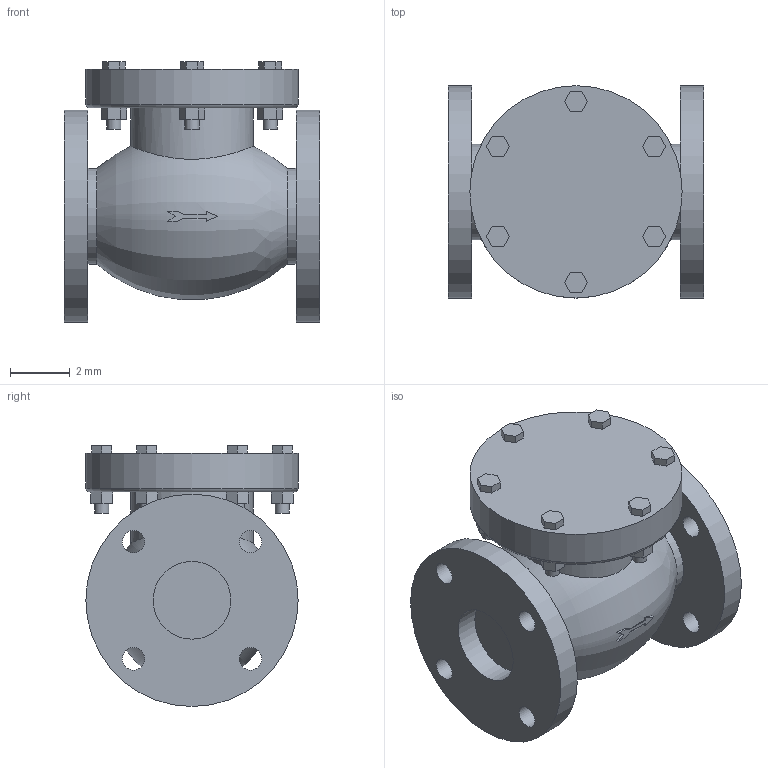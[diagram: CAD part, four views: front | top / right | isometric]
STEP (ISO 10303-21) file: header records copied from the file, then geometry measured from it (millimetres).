
FILE_DESCRIPTION(('Open CASCADE Model'),'2;1');
FILE_NAME('Open CASCADE Shape Model','2021-09-27T08:43:53',('Author'),( 'Open CASCADE'),'Open CASCADE STEP processor 7.3','Open CASCADE 7.3' ,'Unknown');
FILE_SCHEMA(('AUTOMOTIVE_DESIGN { 1 0 10303 214 1 1 1 1 }'));
Length unit declared in the file: millimetre
Products named in the file (1): Open CASCADE STEP translator 7.3 1
Bounding box: 8.54 x 7.1 x 8.72 mm (x, y, z)
Volume: 244.1 mm3; surface area: 419.7 mm2
Topology: 1 solids, 1 shells, 148 faces, 373 edges, 253 vertices
Faces by surface type: plane 124, cylinder 22, revolution 1, torus 1
Full cylindrical faces by diameter (mm): 0.47 x6, 0.75 x8, 2.6 x2, 3.2 x2, 4.1 x1, 7.1 x3
Entity records: 10212 total; most frequent: CARTESIAN_POINT 2697, DIRECTION 1357, LINE 907, VECTOR 907, ORIENTED_EDGE 746, PCURVE 746, DEFINITIONAL_REPRESENTATION 746, EDGE_CURVE 373
